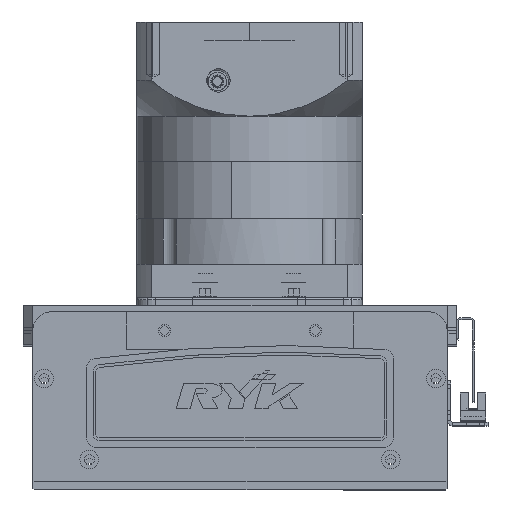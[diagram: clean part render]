
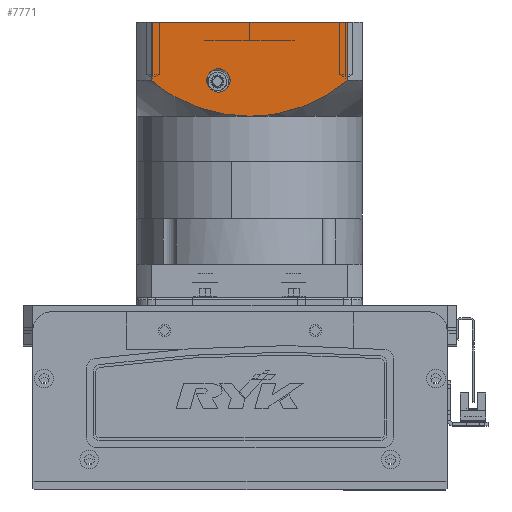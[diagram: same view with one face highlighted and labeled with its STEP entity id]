
A CAD part, top view. The second image highlights one B-rep face of the part: STEP entity #7771.
In plain terms, the highlighted planar face has unit normal (0, 0, 1) as drawn and (0, -1, 0) by its records, which use the part's own axes.
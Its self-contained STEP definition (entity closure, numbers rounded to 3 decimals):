
#21 = CARTESIAN_POINT ( 'NONE',  ( 42.555, -60., -112.543 ) ) ;
#701 = CARTESIAN_POINT ( 'NONE',  ( 44.553, -60., -113.817 ) ) ;
#2747 = CARTESIAN_POINT ( 'NONE',  ( -35.342, -60., -108.587 ) ) ;
#3588 = PLANE ( 'NONE',  #22295 ) ;
#3821 = DIRECTION ( 'NONE',  ( 0., -1., 0. ) ) ;
#4107 = ORIENTED_EDGE ( 'NONE', *, *, #52621, .F. ) ;
#6433 = EDGE_LOOP ( 'NONE', ( #7536, #51348, #43362, #67932, #4107 ) ) ;
#7536 = ORIENTED_EDGE ( 'NONE', *, *, #46514, .F. ) ;
#7771 = ADVANCED_FACE ( 'NONE', ( #17206, #53396 ), #3588, .T. ) ;
#8281 = CARTESIAN_POINT ( 'NONE',  ( -32.118, -60., -107.084 ) ) ;
#9432 = CARTESIAN_POINT ( 'NONE',  ( 16.5, -60., -125.75 ) ) ;
#9464 = CARTESIAN_POINT ( 'NONE',  ( -2.376, -60., -100.5 ) ) ;
#9666 = CARTESIAN_POINT ( 'NONE',  ( 19.894, -60., -102.964 ) ) ;
#10840 = CARTESIAN_POINT ( 'NONE',  ( 52.156, -60., -119.5 ) ) ;
#11072 = CARTESIAN_POINT ( 'NONE',  ( 32.196, -60., -107.007 ) ) ;
#11553 = CARTESIAN_POINT ( 'NONE',  ( 25.577, -60., -104.596 ) ) ;
#12542 = EDGE_CURVE ( 'NONE', #45185, #25144, #56670, .T. ) ;
#15263 = CARTESIAN_POINT ( 'NONE',  ( -4.747, -60., -100.604 ) ) ;
#15365 = VERTEX_POINT ( 'NONE', #60276 ) ;
#16166 = CARTESIAN_POINT ( 'NONE',  ( 9.454, -60., -100.914 ) ) ;
#16189 = EDGE_CURVE ( 'NONE', #15365, #28571, #25121, .T. ) ;
#16382 = CARTESIAN_POINT ( 'NONE',  ( 0., -60., -100.5 ) ) ;
#17127 = CARTESIAN_POINT ( 'NONE',  ( 36.444, -60., -108.986 ) ) ;
#17206 = FACE_OUTER_BOUND ( 'NONE', #6433, .T. ) ;
#17364 = CARTESIAN_POINT ( 'NONE',  ( 50.338, -60., -117.969 ) ) ;
#18328 = B_SPLINE_CURVE_WITH_KNOTS ( 'NONE', 3,
 ( #25125, #18891, #30228, #69263, #24160, #51621, #2747, #8281, #62743, #29772, #68297, #35245, #41969, #58387, #69742, #15263, #9464, #64424 ),
 .UNSPECIFIED., .F., .F.,
 ( 4, 2, 2, 2, 2, 2, 2, 2, 4 ),
 ( 0., 0.014, 0.018, 0.021, 0.028, 0.042, 0.046, 0.05, 0.057 ),
 .UNSPECIFIED. ) ;
#18829 = DIRECTION ( 'NONE',  ( 0., 1., 0. ) ) ;
#18891 = CARTESIAN_POINT ( 'NONE',  ( -48.52, -60., -116.438 ) ) ;
#19807 = AXIS2_PLACEMENT_3D ( 'NONE', #40477, #18829, #53264 ) ;
#20183 = DIRECTION ( 'NONE',  ( 0., 1., 0. ) ) ;
#20328 = LINE ( 'NONE', #61658, #30730 ) ;
#20459 = CARTESIAN_POINT ( 'NONE',  ( -60., -60., -150.5 ) ) ;
#22295 = AXIS2_PLACEMENT_3D ( 'NONE', #58989, #3821, #37015 ) ;
#22396 = CARTESIAN_POINT ( 'NONE',  ( 48.457, -60., -116.522 ) ) ;
#23113 = EDGE_CURVE ( 'NONE', #37362, #15365, #50628, .T. ) ;
#24160 = CARTESIAN_POINT ( 'NONE',  ( -38.51, -60., -110.207 ) ) ;
#25121 = LINE ( 'NONE', #30950, #52689 ) ;
#25125 = CARTESIAN_POINT ( 'NONE',  ( -52.156, -60., -119.5 ) ) ;
#25144 = VERTEX_POINT ( 'NONE', #53416 ) ;
#25398 = B_SPLINE_CURVE_WITH_KNOTS ( 'NONE', 3,
 ( #37811, #65337, #16166, #64864, #60265, #37114, #9666, #48157, #11553, #11072, #17127, #49572, #21, #701, #33041, #22396, #17364, #10840 ),
 .UNSPECIFIED., .F., .F.,
 ( 4, 2, 2, 2, 2, 2, 2, 2, 4 ),
 ( 0., 0.014, 0.018, 0.021, 0.028, 0.042, 0.046, 0.05, 0.057 ),
 .UNSPECIFIED. ) ;
#26300 = VERTEX_POINT ( 'NONE', #16382 ) ;
#28571 = VERTEX_POINT ( 'NONE', #44371 ) ;
#29772 = CARTESIAN_POINT ( 'NONE',  ( -23.319, -60., -103.777 ) ) ;
#30228 = CARTESIAN_POINT ( 'NONE',  ( -44.656, -60., -113.73 ) ) ;
#30730 = VECTOR ( 'NONE', #44727, 1000. ) ;
#30950 = CARTESIAN_POINT ( 'NONE',  ( 52.156, -60., -150.5 ) ) ;
#33019 = ORIENTED_EDGE ( 'NONE', *, *, #45182, .T. ) ;
#33041 = CARTESIAN_POINT ( 'NONE',  ( 45.542, -60., -114.478 ) ) ;
#34259 = CIRCLE ( 'NONE', #19807, 6.25 ) ;
#35245 = CARTESIAN_POINT ( 'NONE',  ( -12.993, -60., -101.537 ) ) ;
#36001 = VECTOR ( 'NONE', #69887, 1000. ) ;
#36774 = CARTESIAN_POINT ( 'NONE',  ( 16.5, -60., -119.5 ) ) ;
#37015 = DIRECTION ( 'NONE',  ( 1., 0., 0. ) ) ;
#37114 = CARTESIAN_POINT ( 'NONE',  ( 18.739, -60., -102.681 ) ) ;
#37362 = VERTEX_POINT ( 'NONE', #44849 ) ;
#37811 = CARTESIAN_POINT ( 'NONE',  ( 0., -60., -100.5 ) ) ;
#40477 = CARTESIAN_POINT ( 'NONE',  ( 16.5, -60., -119.5 ) ) ;
#41969 = CARTESIAN_POINT ( 'NONE',  ( -11.825, -60., -101.356 ) ) ;
#43362 = ORIENTED_EDGE ( 'NONE', *, *, #16189, .T. ) ;
#44371 = CARTESIAN_POINT ( 'NONE',  ( 52.156, -60., -119.5 ) ) ;
#44727 = DIRECTION ( 'NONE',  ( 0., 0., 1. ) ) ;
#44849 = CARTESIAN_POINT ( 'NONE',  ( -52.156, -60., -150.5 ) ) ;
#44891 = EDGE_LOOP ( 'NONE', ( #71070, #33019 ) ) ;
#45182 = EDGE_CURVE ( 'NONE', #25144, #45185, #34259, .T. ) ;
#45185 = VERTEX_POINT ( 'NONE', #9432 ) ;
#45426 = EDGE_CURVE ( 'NONE', #26300, #28571, #25398, .T. ) ;
#46514 = EDGE_CURVE ( 'NONE', #37362, #64039, #20328, .T. ) ;
#46931 = AXIS2_PLACEMENT_3D ( 'NONE', #36774, #20183, #58746 ) ;
#48157 = CARTESIAN_POINT ( 'NONE',  ( 23.329, -60., -103.886 ) ) ;
#49572 = CARTESIAN_POINT ( 'NONE',  ( 41.545, -60., -111.931 ) ) ;
#50628 = LINE ( 'NONE', #20459, #36001 ) ;
#51348 = ORIENTED_EDGE ( 'NONE', *, *, #23113, .T. ) ;
#51621 = CARTESIAN_POINT ( 'NONE',  ( -36.409, -60., -109.113 ) ) ;
#52401 = CARTESIAN_POINT ( 'NONE',  ( -52.156, -60., -119.5 ) ) ;
#52567 = DIRECTION ( 'NONE',  ( 0., 0., 1. ) ) ;
#52621 = EDGE_CURVE ( 'NONE', #64039, #26300, #18328, .T. ) ;
#52689 = VECTOR ( 'NONE', #52567, 1000. ) ;
#53264 = DIRECTION ( 'NONE',  ( 0., 0., -1. ) ) ;
#53396 = FACE_BOUND ( 'NONE', #44891, .T. ) ;
#53416 = CARTESIAN_POINT ( 'NONE',  ( 16.5, -60., -113.25 ) ) ;
#56670 = CIRCLE ( 'NONE', #46931, 6.25 ) ;
#58387 = CARTESIAN_POINT ( 'NONE',  ( -9.477, -60., -101.046 ) ) ;
#58746 = DIRECTION ( 'NONE',  ( 0., 0., -1. ) ) ;
#58989 = CARTESIAN_POINT ( 'NONE',  ( -60., -60., -150.5 ) ) ;
#60265 = CARTESIAN_POINT ( 'NONE',  ( 16.426, -60., -102.169 ) ) ;
#60276 = CARTESIAN_POINT ( 'NONE',  ( 52.156, -60., -150.5 ) ) ;
#61658 = CARTESIAN_POINT ( 'NONE',  ( -52.156, -60., -97.5 ) ) ;
#62743 = CARTESIAN_POINT ( 'NONE',  ( -29.939, -60., -106.183 ) ) ;
#64039 = VERTEX_POINT ( 'NONE', #52401 ) ;
#64424 = CARTESIAN_POINT ( 'NONE',  ( 0., -60., -100.5 ) ) ;
#64864 = CARTESIAN_POINT ( 'NONE',  ( 15.267, -60., -101.938 ) ) ;
#65337 = CARTESIAN_POINT ( 'NONE',  ( 4.753, -60., -100.5 ) ) ;
#67932 = ORIENTED_EDGE ( 'NONE', *, *, #45426, .F. ) ;
#68297 = CARTESIAN_POINT ( 'NONE',  ( -18.792, -60., -102.562 ) ) ;
#69263 = CARTESIAN_POINT ( 'NONE',  ( -39.546, -60., -110.776 ) ) ;
#69742 = CARTESIAN_POINT ( 'NONE',  ( -8.294, -60., -100.916 ) ) ;
#69887 = DIRECTION ( 'NONE',  ( 1., 0., 0. ) ) ;
#71070 = ORIENTED_EDGE ( 'NONE', *, *, #12542, .T. ) ;
